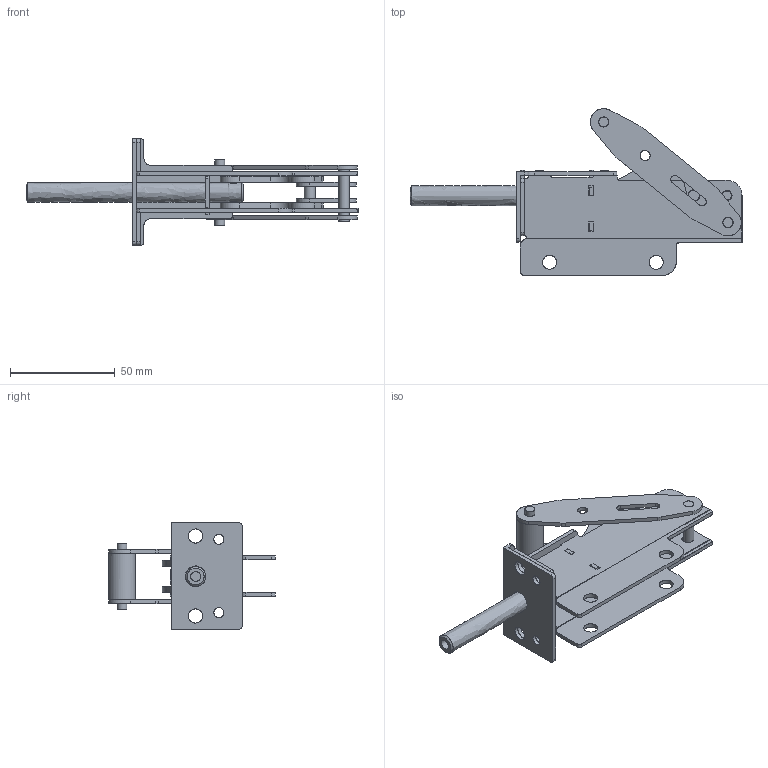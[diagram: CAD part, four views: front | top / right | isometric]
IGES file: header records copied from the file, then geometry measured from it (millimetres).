
Start section:  Autodesk DirectConnect version 7.0.27.0 ---- IGES version 5.3
Global section: file name: C:\Users\Nick\Desktop\P&PS 800\3D\P&PS-800.igs; native system: Autodesk DirectConnect 7.0.27.0; preprocessor: 7.0.27.0; author: Nick; organization: Unknown; date: 20150604.125503; units: inch
Bounding box: 158.23 x 79.41 x 50.8 mm (x, y, z)
Surface area: 45876.1 mm2 (no closed solid volume)
Topology: 0 solids, 0 shells, 331 faces, 2223 edges, 2210 vertices
Faces by surface type: bspline 331
